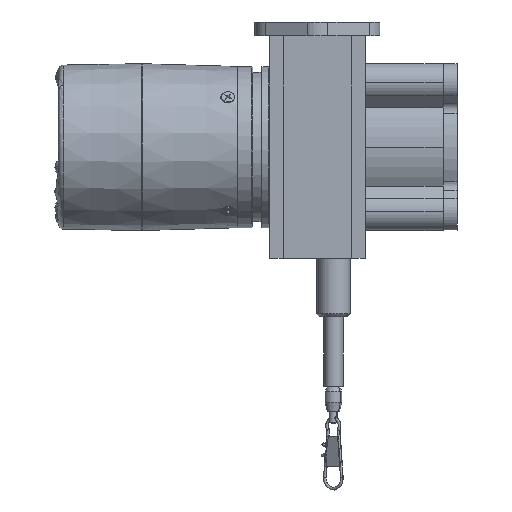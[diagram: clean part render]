
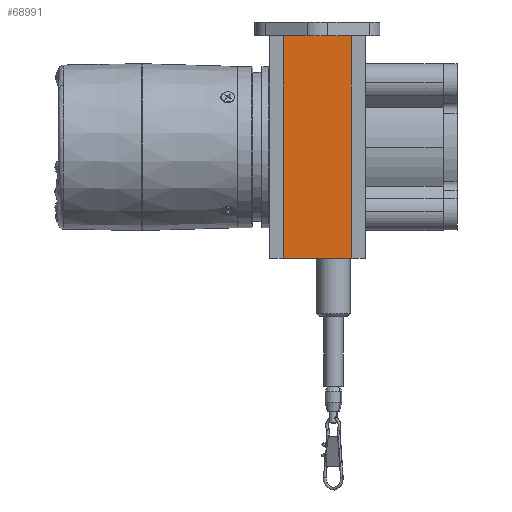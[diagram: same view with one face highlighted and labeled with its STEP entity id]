
A CAD part, front view. The second image highlights one B-rep face of the part: STEP entity #68991.
In plain terms, the highlighted planar face has unit normal (0, -1, 0).
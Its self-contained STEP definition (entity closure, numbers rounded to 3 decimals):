
#33652 = CARTESIAN_POINT ( 'NONE',  ( 0., -40., -40. ) ) ;
#33655 = CARTESIAN_POINT ( 'NONE',  ( -24.5, -40., -40. ) ) ;
#33658 = DIRECTION ( 'NONE',  ( -1., 0., 0. ) ) ;
#33660 = VECTOR ( 'NONE', #33658, 1000. ) ;
#33664 = CARTESIAN_POINT ( 'NONE',  ( -24.5, -40., -40. ) ) ;
#33666 = LINE ( 'NONE', #33664, #33660 ) ;
#33953 = DIRECTION ( 'NONE',  ( 0., 0., 1. ) ) ;
#33956 = DIRECTION ( 'NONE',  ( 0., 1., 0. ) ) ;
#33958 = CARTESIAN_POINT ( 'NONE',  ( -24.5, -40., -40. ) ) ;
#33960 = AXIS2_PLACEMENT_3D ( 'NONE', #33958, #33956, #33953 ) ;
#33966 = PLANE ( 'NONE',  #33960 ) ;
#34000 = FACE_OUTER_BOUND ( 'NONE', #68992, .T. ) ;
#34165 = DIRECTION ( 'NONE',  ( 0., 0., 1. ) ) ;
#34167 = VECTOR ( 'NONE', #34165, 1000. ) ;
#34168 = CARTESIAN_POINT ( 'NONE',  ( -24.5, -40., -40. ) ) ;
#34169 = LINE ( 'NONE', #34168, #34167 ) ;
#34180 = CARTESIAN_POINT ( 'NONE',  ( -24.5, -40., 40. ) ) ;
#34183 = CARTESIAN_POINT ( 'NONE',  ( 0., -40., 40. ) ) ;
#34186 = DIRECTION ( 'NONE',  ( 1., 0., 0. ) ) ;
#34187 = VECTOR ( 'NONE', #34186, 1000. ) ;
#34190 = CARTESIAN_POINT ( 'NONE',  ( -24.5, -40., 40. ) ) ;
#34193 = LINE ( 'NONE', #34190, #34187 ) ;
#34423 = DIRECTION ( 'NONE',  ( 0., 0., -1. ) ) ;
#34425 = VECTOR ( 'NONE', #34423, 1000. ) ;
#34429 = CARTESIAN_POINT ( 'NONE',  ( 0., -40., -40. ) ) ;
#34432 = LINE ( 'NONE', #34429, #34425 ) ;
#68950 = EDGE_CURVE ( 'NONE', #68953, #68951, #33666, .T. ) ;
#68951 = VERTEX_POINT ( 'NONE', #33655 ) ;
#68953 = VERTEX_POINT ( 'NONE', #33652 ) ;
#68991 = ADVANCED_FACE ( 'NONE', ( #34000 ), #33966, .F. ) ;
#68992 = EDGE_LOOP ( 'NONE', ( #68993, #68994, #68995, #69051 ) ) ;
#68993 = ORIENTED_EDGE ( 'NONE', *, *, #69007, .F. ) ;
#68994 = ORIENTED_EDGE ( 'NONE', *, *, #69021, .F. ) ;
#68995 = ORIENTED_EDGE ( 'NONE', *, *, #68950, .F. ) ;
#69007 = EDGE_CURVE ( 'NONE', #69016, #69008, #34193, .T. ) ;
#69008 = VERTEX_POINT ( 'NONE', #34183 ) ;
#69016 = VERTEX_POINT ( 'NONE', #34180 ) ;
#69021 = EDGE_CURVE ( 'NONE', #68951, #69016, #34169, .T. ) ;
#69044 = EDGE_CURVE ( 'NONE', #69008, #68953, #34432, .T. ) ;
#69051 = ORIENTED_EDGE ( 'NONE', *, *, #69044, .F. ) ;
